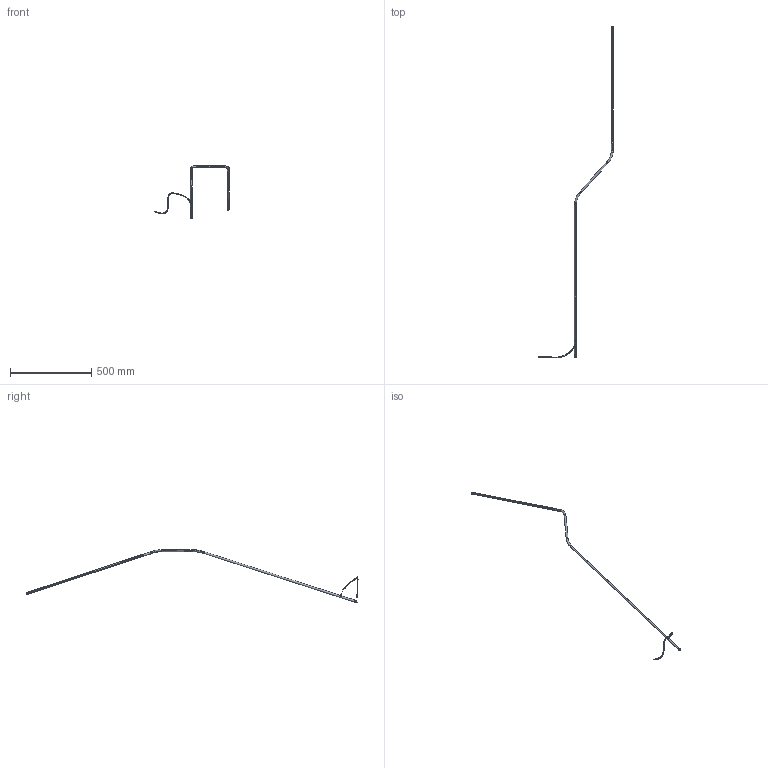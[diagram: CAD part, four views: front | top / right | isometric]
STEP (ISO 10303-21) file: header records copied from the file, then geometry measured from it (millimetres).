
FILE_DESCRIPTION (( 'STEP AP214' ), '1' );
FILE_NAME ('NEO.STEP', '2020-09-24T15:12:53', ( 'User' ), ( 'Hewlett-Packard Company' ), 'SwSTEP 2.0', 'SolidWorks 2016', '' );
FILE_SCHEMA (( 'AUTOMOTIVE_DESIGN' ));
Length unit declared in the file: millimetre
Products named in the file (1): NEO
Bounding box: 458.56 x 2048.38 x 329.96 mm (x, y, z)
Volume: 216523.6 mm3; surface area: 131864.2 mm2
Topology: 10 solids, 10 shells, 717 faces, 1734 edges, 919 vertices
Faces by surface type: cylinder 239, torus 196, bspline 145, plane 129, cone 5, sphere 3
Entity records: 24664 total; most frequent: CARTESIAN_POINT 8344, ORIENTED_EDGE 3198, DIRECTION 3152, EDGE_CURVE 1599, AXIS2_PLACEMENT_3D 1317, VERTEX_POINT 917, CIRCLE 744, EDGE_LOOP 734
